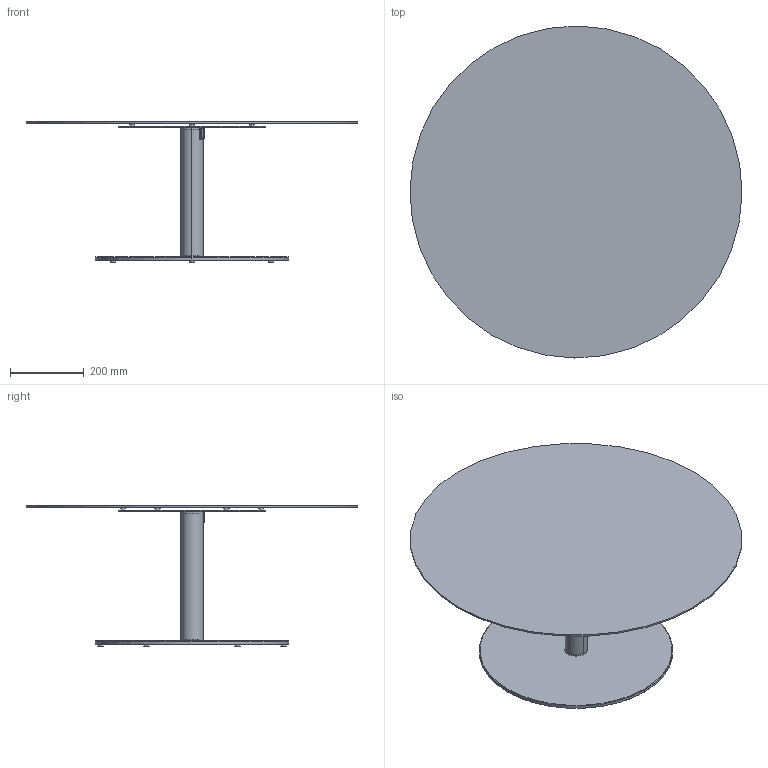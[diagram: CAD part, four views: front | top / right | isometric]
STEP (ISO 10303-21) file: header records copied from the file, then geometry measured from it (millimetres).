
FILE_DESCRIPTION(/* description */ (''),/* implementation_level */ '2;1');
FILE_NAME(/* name */ 'May Coffee Table',/* time_stamp */ '2026-01-20T11:26:35+01:00',/* author */ (''),/* organization */ (''),/* preprocessor_version */ 'ST-DEVELOPER v19.2',/* originating_system */ 'Rhino 8.25',/* authorisation */ '');
FILE_SCHEMA (('CONFIG_CONTROL_DESIGN'));
Length unit declared in the file: millimetre
Products named in the file (1): Document
Bounding box: 899.97 x 899.97 x 381.8 mm (x, y, z)
Volume: 5358464.9 mm3; surface area: 2130676.7 mm2
Topology: 11 solids, 11 shells, 170 faces, 366 edges, 234 vertices
Faces by surface type: cylinder 86, plane 46, bspline 38
Entity records: 5510 total; most frequent: CARTESIAN_POINT 1778, ORIENTED_EDGE 732, DIRECTION 592, EDGE_CURVE 366, AXIS2_PLACEMENT_3D 362, VERTEX_POINT 234, TRIMMED_CURVE 228, CIRCLE 228
